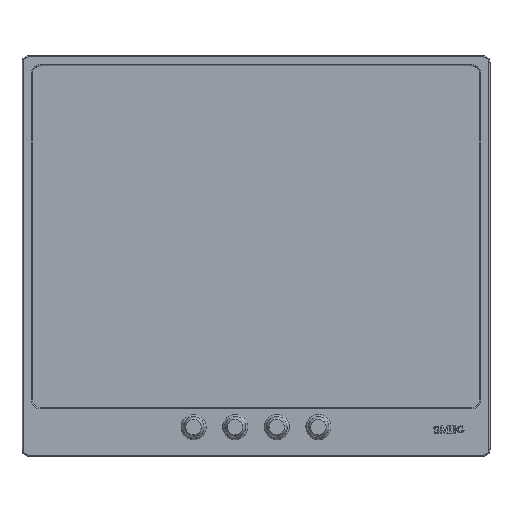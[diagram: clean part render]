
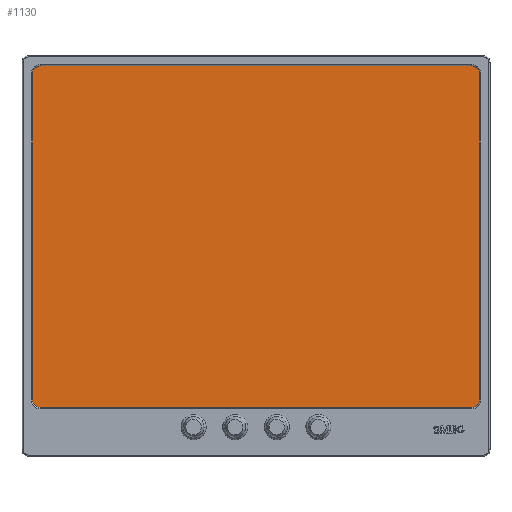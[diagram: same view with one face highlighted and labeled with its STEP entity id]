
A CAD part, top view. The second image highlights one B-rep face of the part: STEP entity #1130.
In plain terms, the highlighted planar face has unit normal (0, 0, 1).
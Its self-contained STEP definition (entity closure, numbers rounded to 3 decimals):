
#274=LINE('',#6416,#523);
#275=LINE('',#6421,#524);
#276=LINE('',#6425,#525);
#277=LINE('',#6429,#526);
#523=VECTOR('',#5263,1.);
#524=VECTOR('',#5266,1.);
#525=VECTOR('',#5269,1.);
#526=VECTOR('',#5272,1.);
#1130=ADVANCED_FACE('',(#1438),#1247,.T.);
#1247=PLANE('',#4178);
#1438=FACE_OUTER_BOUND('',#1681,.T.);
#1681=EDGE_LOOP('',(#2625,#2626,#2627,#2628,#2629,#2630,#2631,#2632));
#2625=ORIENTED_EDGE('',*,*,#3498,.F.);
#2626=ORIENTED_EDGE('',*,*,#3499,.T.);
#2627=ORIENTED_EDGE('',*,*,#3500,.F.);
#2628=ORIENTED_EDGE('',*,*,#3501,.T.);
#2629=ORIENTED_EDGE('',*,*,#3502,.F.);
#2630=ORIENTED_EDGE('',*,*,#3503,.T.);
#2631=ORIENTED_EDGE('',*,*,#3504,.F.);
#2632=ORIENTED_EDGE('',*,*,#3505,.T.);
#3015=VERTEX_POINT('',#6417);
#3016=VERTEX_POINT('',#6418);
#3017=VERTEX_POINT('',#6420);
#3018=VERTEX_POINT('',#6422);
#3019=VERTEX_POINT('',#6424);
#3020=VERTEX_POINT('',#6426);
#3021=VERTEX_POINT('',#6428);
#3022=VERTEX_POINT('',#6430);
#3498=EDGE_CURVE('',#3015,#3016,#274,.T.);
#3499=EDGE_CURVE('',#3015,#3017,#3750,.T.);
#3500=EDGE_CURVE('',#3018,#3017,#275,.T.);
#3501=EDGE_CURVE('',#3018,#3019,#3751,.T.);
#3502=EDGE_CURVE('',#3020,#3019,#276,.T.);
#3503=EDGE_CURVE('',#3020,#3021,#3752,.T.);
#3504=EDGE_CURVE('',#3022,#3021,#277,.T.);
#3505=EDGE_CURVE('',#3022,#3016,#3753,.T.);
#3750=CIRCLE('',#4174,5.);
#3751=CIRCLE('',#4175,5.);
#3752=CIRCLE('',#4176,5.);
#3753=CIRCLE('',#4177,5.);
#4174=AXIS2_PLACEMENT_3D('',#6419,#5264,#5265);
#4175=AXIS2_PLACEMENT_3D('',#6423,#5267,#5268);
#4176=AXIS2_PLACEMENT_3D('',#6427,#5270,#5271);
#4177=AXIS2_PLACEMENT_3D('',#6431,#5273,#5274);
#4178=AXIS2_PLACEMENT_3D('',#6432,#5275,#5276);
#5263=DIRECTION('',(0.,-1.,0.));
#5264=DIRECTION('',(0.,0.,1.));
#5265=DIRECTION('',(1.,0.,0.));
#5266=DIRECTION('',(1.,0.,0.));
#5267=DIRECTION('',(0.,0.,1.));
#5268=DIRECTION('',(1.,0.,0.));
#5269=DIRECTION('',(0.,1.,0.));
#5270=DIRECTION('',(0.,0.,1.));
#5271=DIRECTION('',(1.,0.,0.));
#5272=DIRECTION('',(-1.,0.,0.));
#5273=DIRECTION('',(0.,0.,1.));
#5274=DIRECTION('',(1.,0.,0.));
#5275=DIRECTION('',(0.,0.,1.));
#5276=DIRECTION('',(1.,0.,0.));
#6416=CARTESIAN_POINT('',(438.977,338.626,54.5));
#6417=CARTESIAN_POINT('',(438.977,558.126,54.5));
#6418=CARTESIAN_POINT('',(438.977,119.126,54.5));
#6419=CARTESIAN_POINT('',(433.977,558.126,54.5));
#6420=CARTESIAN_POINT('',(433.977,563.126,54.5));
#6421=CARTESIAN_POINT('',(144.977,563.126,54.5));
#6422=CARTESIAN_POINT('',(-144.023,563.126,54.5));
#6423=CARTESIAN_POINT('',(-144.023,558.126,54.5));
#6424=CARTESIAN_POINT('',(-149.023,558.126,54.5));
#6425=CARTESIAN_POINT('',(-149.023,338.626,54.5));
#6426=CARTESIAN_POINT('',(-149.023,119.126,54.5));
#6427=CARTESIAN_POINT('',(-144.023,119.126,54.5));
#6428=CARTESIAN_POINT('',(-144.023,114.126,54.5));
#6429=CARTESIAN_POINT('',(144.977,114.126,54.5));
#6430=CARTESIAN_POINT('',(433.977,114.126,54.5));
#6431=CARTESIAN_POINT('',(433.977,119.126,54.5));
#6432=CARTESIAN_POINT('',(144.977,338.626,54.5));
